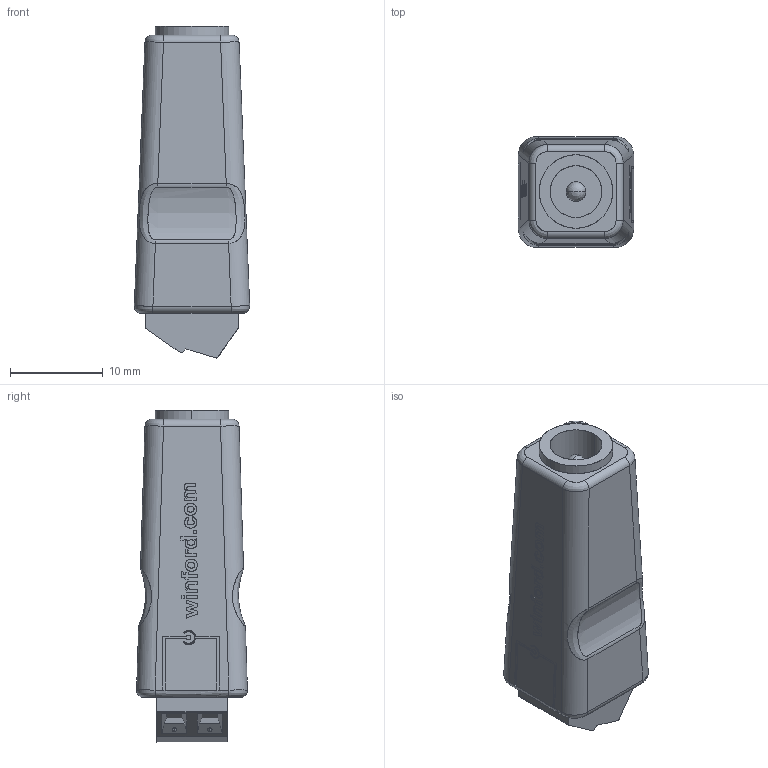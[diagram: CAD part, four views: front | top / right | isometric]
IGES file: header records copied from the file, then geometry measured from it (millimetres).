
Start section: SolidWorks IGES file using analytic representation for surfaces
Global section: file name: W:\end-user\products\brk\brkp\brkp05-dcja-a\3dmodel\rev_a\render\brkp05-dcja-a_rev_a.igs; native system: SolidWorks 2018; preprocessor: SolidWorks 2018; author: leviroy; date: 260615.141720; units: inch
Bounding box: 12.44 x 11.95 x 35.81 mm (x, y, z)
Surface area: 2948.3 mm2 (no closed solid volume)
Topology: 0 solids, 0 shells, 552 faces, 4703 edges, 4701 vertices
Faces by surface type: bspline 458, revolution 94
